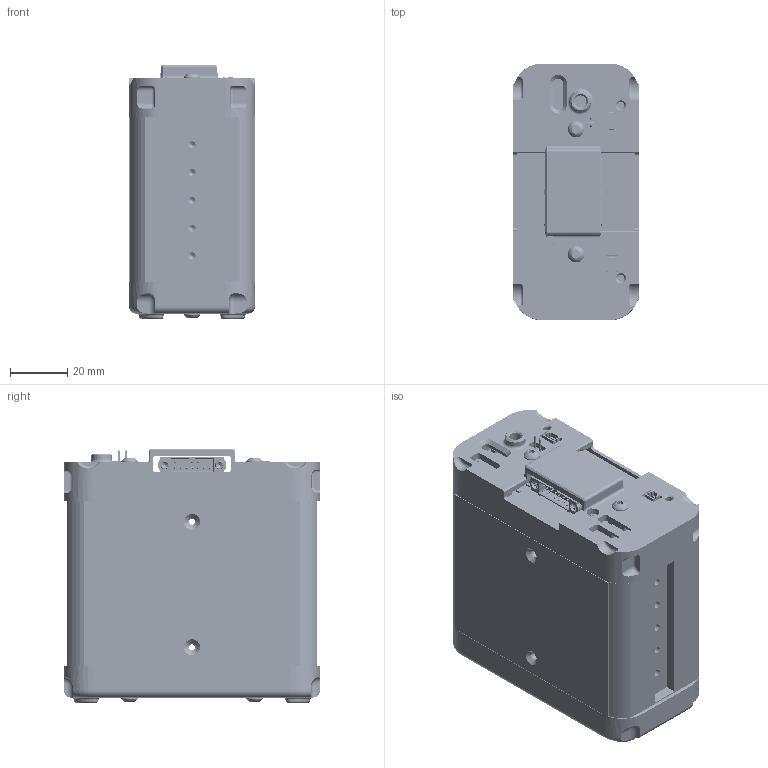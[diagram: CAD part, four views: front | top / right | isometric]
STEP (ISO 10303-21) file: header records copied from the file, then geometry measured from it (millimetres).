
FILE_DESCRIPTION (( 'STEP AP214' ), '1' );
FILE_NAME ('710-01552-F Battery Module 2 - No Brackets.STEP', '2018-10-26T17:03:38', ( '' ), ( '' ), 'SwSTEP 2.0', 'SolidWorks 2014', '' );
FILE_SCHEMA (( 'AUTOMOTIVE_DESIGN' ));
Length unit declared in the file: inch
Products named in the file (2): 710-01552-F Battery Module 2 - No Brackets
Bounding box: 44.12 x 89.3 x 88.77 mm (x, y, z)
Volume: 278708.7 mm3; surface area: 58030.4 mm2
Topology: 1 solids, 5 shells, 4010 faces, 11130 edges, 7109 vertices
Faces by surface type: plane 1895, cylinder 923, cone 574, torus 402, bspline 204, sphere 12
Entity records: 168454 total; most frequent: CARTESIAN_POINT 55238, ORIENTED_EDGE 22196, DIRECTION 20630, EDGE_CURVE 11098, AXIS2_PLACEMENT_3D 7235, VERTEX_POINT 7109, LINE 6160, VECTOR 6160
